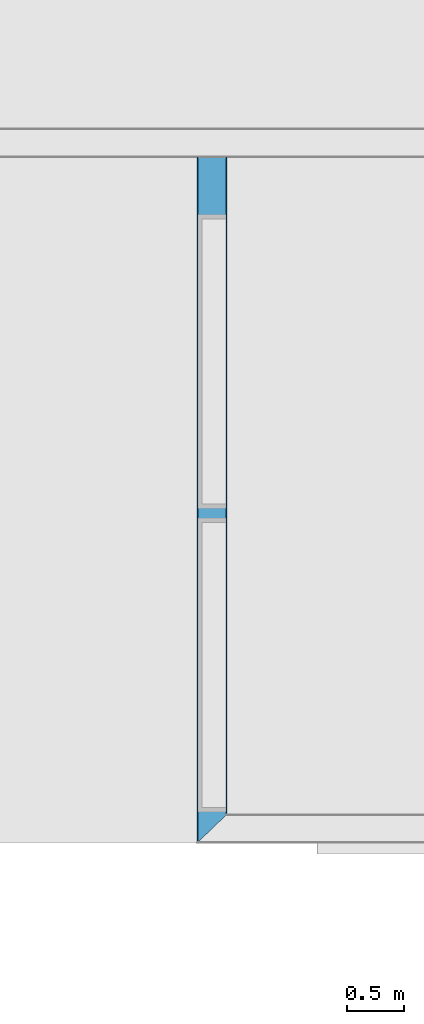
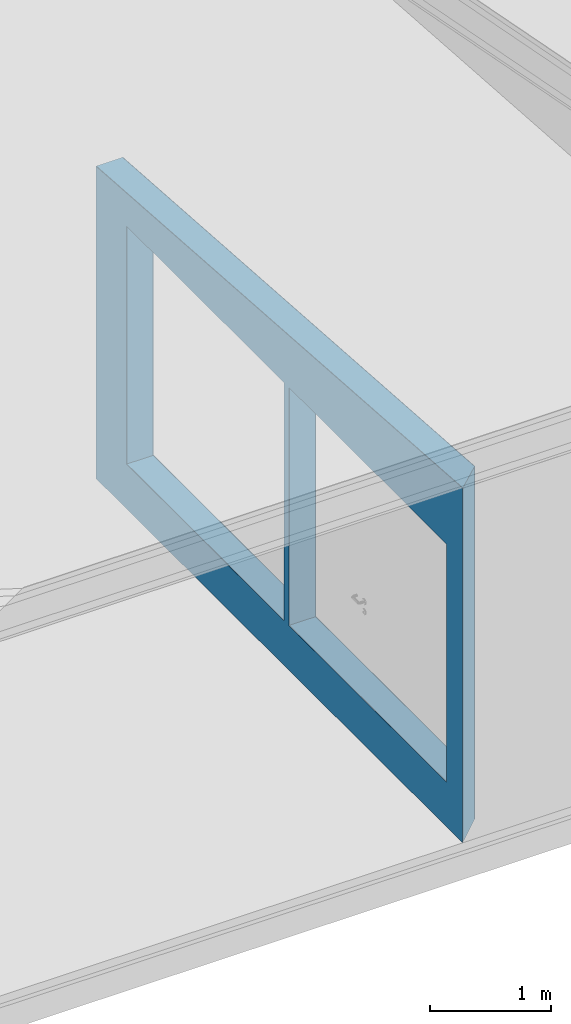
# One storey, part 24 of 62: 3 building element parts, 2 openings, 1 element without a shape of its own.
"""IFC2X3 building model written with IfcOpenShell, lengths in millimetres."""

from ifc_helpers import new_model, entity, si_unit, converted_unit, derived_unit, money_unit, direction, frame, origin_with_axes, origin_2d_with_axis, place, context, subcontext, project, spatial, polyline, rectangle, outline, extrude, clip, halfspace, bounded_halfspace, material, type_object, element, aggregate, save


model = new_model("IFC2X3")

# Units and contexts
model_context = context("Model", 3, precision=0.01, world=origin_with_axes(), true_north=direction((0.0, 1.0)))
body_context = subcontext(model_context, "Body", "Model", "MODEL_VIEW")
ifc_project = project(units=[si_unit("LENGTHUNIT", "METRE", prefix="MILLI"), si_unit("AREAUNIT", "SQUARE_METRE"), si_unit("VOLUMEUNIT", "CUBIC_METRE"), converted_unit("PLANEANGLEUNIT", "DEGREE", entity("IfcPlaneAngleMeasure", 0.0174532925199), si_unit("PLANEANGLEUNIT", "RADIAN"), dimensions=[0, 0, 0, 0, 0, 0, 0]), si_unit("SOLIDANGLEUNIT", "STERADIAN"), money_unit("EUR"), converted_unit("TIMEUNIT", "Year", entity("IfcTimeMeasure", 31556926.0), si_unit("TIMEUNIT", "SECOND"), dimensions=[0, 0, 1, 0, 0, 0, 0]), si_unit("MASSUNIT", "GRAM", prefix="KILO"), si_unit("THERMODYNAMICTEMPERATUREUNIT", "DEGREE_CELSIUS"), si_unit("LUMINOUSINTENSITYUNIT", "LUMEN"), si_unit("ENERGYUNIT", "JOULE", prefix="MEGA"), derived_unit("THERMALCONDUCTANCEUNIT", [(si_unit("POWERUNIT", "WATT"), 1), (si_unit("LENGTHUNIT", "METRE"), -1), (si_unit("THERMODYNAMICTEMPERATUREUNIT", "KELVIN"), -1)]), derived_unit("SPECIFICHEATCAPACITYUNIT", [(si_unit("ENERGYUNIT", "JOULE"), 1), (si_unit("MASSUNIT", "GRAM", prefix="KILO"), -1), (si_unit("THERMODYNAMICTEMPERATUREUNIT", "KELVIN"), -1)]), derived_unit("MASSDENSITYUNIT", [(si_unit("MASSUNIT", "GRAM", prefix="KILO"), 1), (si_unit("VOLUMEUNIT", "CUBIC_METRE"), -1)])], contexts=[model_context])

# Site, building, storey
site_placement = place(None, origin_with_axes())
site = spatial("IfcSite", under=ifc_project, at=site_placement, Name="KIRDE 14, ELVA", CompositionType="ELEMENT")
building_placement = place(site_placement, origin_with_axes())
building = spatial("IfcBuilding", under=site, at=building_placement, Name="PPA ja Päästeameti ühishoone", CompositionType="ELEMENT")
storey_placement = place(building_placement, origin_with_axes())
storey = spatial("IfcBuildingStorey", under=building, at=storey_placement, Name="Esimene korrus", CompositionType="ELEMENT", Elevation=0.0)

# Wall, openings, building element parts
wall_type = type_object("IfcWallType", Name="A-SS01 260", PredefinedType="NOTDEFINED")
wall_placement = place(storey_placement, frame((11159.4856153, 39784.5478473, 0.0), z_axis=(0.0, 0.0, 1.0), x_axis=(0.0, 1.0, 0.0)))
wall = element("IfcWall", 1, at=wall_placement, inside=storey, type_object=wall_type, Name="VS-06")
opening_1_placement = place(wall_placement, frame((4003.00003344, 0.0, 450.0), z_axis=(0.0, 0.0, 1.0), x_axis=(1.0, 0.0, 0.0)))
element("IfcOpeningElement", 2, at=opening_1_placement, cuts=wall, Name="GUA-01", context=body_context, shape_type="SweptSolid", body=[
    extrude(rectangle(XDim=2600.0, YDim=2400.0, at=origin_2d_with_axis()), frame((0.0, 260.0, 1200.0), z_axis=(0.0, 1.0, 0.0), x_axis=(-1.0, 0.0, 0.0)), (0.0, 0.0, -1.0), 780.0),
])
opening_2_placement = place(wall_placement, frame((1321.00003344, 0.0, 450.0), z_axis=(0.0, 0.0, 1.0), x_axis=(1.0, 0.0, 0.0)))
element("IfcOpeningElement", 3, at=opening_2_placement, cuts=wall, Name="GUA-01", context=body_context, shape_type="SweptSolid", body=[
    extrude(rectangle(XDim=2600.0, YDim=2400.0, at=origin_2d_with_axis()), frame((0.0, 260.0, 1200.0), z_axis=(0.0, 1.0, 0.0), x_axis=(-1.0, 0.0, 0.0)), (0.0, 0.0, -1.0), 780.0),
])
ifc_material_1 = material(Name="Krohv")
building_element_part_1_placement = place(wall_placement, origin_with_axes())
building_element_part_1 = element("IfcBuildingElementPart", 4, at=building_element_part_1_placement, material=ifc_material_1, Name="Krohv", context=body_context, shape_type="Clipping", body=[
    clip(clip(clip(extrude(outline(polyline([(0.0, 0.0), (5809.00002684, 0.0), (5809.00002684, 5.0), (-4.80769230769, 5.0), (0.0, 0.0)])), origin_with_axes(), (0.0, 0.0, 1.0), 5000.14237467), bounded_halfspace(frame((249.568832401, 1.02764284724e-07, 3539.12728449), z_axis=(-0.0703423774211, 0.0, -0.997522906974), x_axis=(0.0, 1.0, 0.0)), True, origin_with_axes(), polyline([(-249.999999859, -10.0), (9614.01003624, -10.0), (9614.01003624, 270.0), (-249.999999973, 270.0), (-249.999999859, -10.0)]))), halfspace(frame((259.392370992, 0.0, 3678.43455745), z_axis=(-0.0703423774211, 0.0, -0.997522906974), x_axis=(0.0, 1.0, 0.0)), True)), halfspace(frame((935.741446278, 0.0, 4748.54980327), z_axis=(-0.193340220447, 0.0, -0.981131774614), x_axis=(0.0, 1.0, 0.0)), True)),
])
ifc_material_2 = material(Name="COLUMBIA KIVI")
building_element_part_2_placement = place(wall_placement, origin_with_axes())
building_element_part_2 = element("IfcBuildingElementPart", 5, at=building_element_part_2_placement, material=ifc_material_2, Name="COLUMBIA KIVI", context=body_context, shape_type="Clipping", body=[
    clip(clip(clip(extrude(outline(polyline([(-4.80769230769, 5.0), (5809.00002684, 5.0), (5809.00002684, 255.0), (-245.192307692, 255.0), (-4.80769230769, 5.0)])), origin_with_axes(), (0.0, 0.0, 1.0), 5000.14237467), bounded_halfspace(frame((249.568832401, 1.02764284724e-07, 3539.12728449), z_axis=(-0.0703423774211, 0.0, -0.997522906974), x_axis=(0.0, 1.0, 0.0)), True, origin_with_axes(), polyline([(-249.999999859, -10.0), (9614.01003624, -10.0), (9614.01003624, 270.0), (-249.999999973, 270.0), (-249.999999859, -10.0)]))), halfspace(frame((259.392370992, 0.0, 3678.43455745), z_axis=(-0.0703423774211, 0.0, -0.997522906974), x_axis=(0.0, 1.0, 0.0)), True)), halfspace(frame((935.741446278, 0.0, 4748.54980327), z_axis=(-0.193340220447, 0.0, -0.981131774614), x_axis=(0.0, 1.0, 0.0)), True)),
])
building_element_part_3_placement = place(wall_placement, origin_with_axes())
building_element_part_3 = element("IfcBuildingElementPart", 6, at=building_element_part_3_placement, material=ifc_material_1, Name="Krohv", context=body_context, shape_type="Clipping", body=[
    clip(clip(clip(extrude(outline(polyline([(-245.192307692, 255.0), (5809.00002684, 255.0), (5809.00002684, 260.0), (-250.0, 260.0), (-245.192307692, 255.0)])), origin_with_axes(), (0.0, 0.0, 1.0), 5000.14237467), bounded_halfspace(frame((249.568832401, 1.02764284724e-07, 3539.12728449), z_axis=(-0.0703423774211, 0.0, -0.997522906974), x_axis=(0.0, 1.0, 0.0)), True, origin_with_axes(), polyline([(-249.999999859, -10.0), (9614.01003624, -10.0), (9614.01003624, 270.0), (-249.999999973, 270.0), (-249.999999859, -10.0)]))), halfspace(frame((259.392370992, 0.0, 3678.43455745), z_axis=(-0.0703423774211, 0.0, -0.997522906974), x_axis=(0.0, 1.0, 0.0)), True)), halfspace(frame((935.741446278, 0.0, 4748.54980327), z_axis=(-0.193340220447, 0.0, -0.981131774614), x_axis=(0.0, 1.0, 0.0)), True)),
])
aggregate(wall, [building_element_part_1, building_element_part_2, building_element_part_3])

save(model, "model.ifc")
